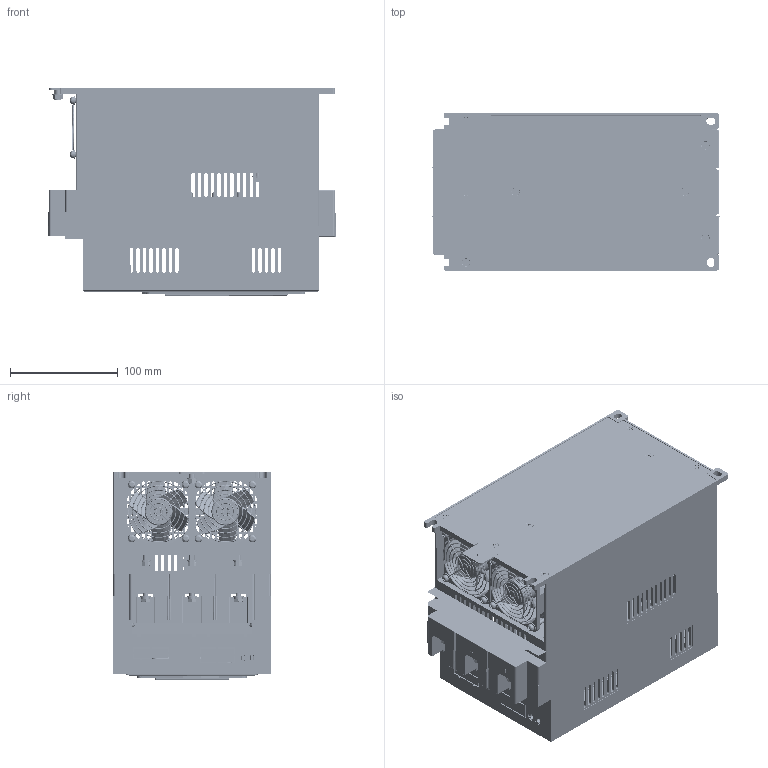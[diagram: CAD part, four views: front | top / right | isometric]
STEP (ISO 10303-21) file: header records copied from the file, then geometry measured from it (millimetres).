
FILE_DESCRIPTION((''),'2;1');
FILE_NAME('1-NJR5-45KW-ALL_ASM','2021-09-27T08:46:58',('ruanmm'),(''),'CREO PARAMETRIC BY PTC INC, 2020044','CREO PARAMETRIC BY PTC INC, 2020044','');
FILE_SCHEMA(('CONFIG_CONTROL_DESIGN','SHAPE_APPEARANCE_LAYERS_GROUPS'));
Products named in the file (57): SRQ-BOTTOMSHELL_ASM; SHELL-BOTTOM-1; 8ZTD-946-133; 8ZTD-946-134; M3-NUT-10; 8ZTD-946-132; SHELL-BOTTOM-1-ASM_ASM; FAN-6025; 60X60-ZU; GB-T9074-4-M4-35; CPU-DIANYUANBAN-ASM_ASM_23_ASM; SPCC-BOTTOM-PLATE; NFH-M5-12-ZI; SPCC-PLATE-ASM_ASM; SHELL-BOTTOM-1_ASM; UP-SHELL-QIAO-20200507-F3; UP-SHELL-1; 048119_1; SHANGGAI-XIN__2; XSP__1; M3TONG__1; XLB-XIN__3; PCB-BL; XLB-XIN-3_ASM; XIAGAI-XIN__2; MANIFOLD_SOLID_BREP_40621; XSGMP-75ZX-M__2_ASM; YKL-75ZX__2; ZHONGZHUTU2__ASM_1_ASM; TOP-SHELL_ASM; MANIFOLD_SOLID_BREP_43363_1___3; MANIFOLD_SOLID_BREP_43363_1___4; MANIFOLD_SOLID_BREP_43363_1___5; MANIFOLD_SOLID_BREP_43363_1___6; MANIFOLD_SOLID_BREP_43363_1___7; MANIFOLD_SOLID_BREP_43363_1___8; MANIFOLD_SOLID_BREP_43363_1___9; MANIFOLD_SOLID_BREP_43363_1__10; MANIFOLD_SOLID_BREP_43363_1__11; MANIFOLD_SOLID_BREP_43363_1__12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
Assembly tree (113 placements, depth 7):
  1-NJR5-45KW-ALL_ASM
    SRQ-BOTTOMSHELL_ASM
    SHELL-BOTTOM-1_ASM
      SHELL-BOTTOM-1-ASM_ASM
        SHELL-BOTTOM-1
        8ZTD-946-133  x4
        8ZTD-946-134  x4
        M3-NUT-10
        8ZTD-946-132  x5
      FAN-6025  x2
      60X60-ZU  x2
      GB-T9074-4-M4-35  x8
      CPU-DIANYUANBAN-ASM_ASM_23_ASM
      SPCC-PLATE-ASM_ASM
        SPCC-BOTTOM-PLATE
        NFH-M5-12-ZI
    UP-SHELL-2_ASM
      UP-SHELL-QIAO-20200507-F3
      UP-SHELL-1
      048119_1
      TOP-SHELL_ASM
        ZHONGZHUTU2__ASM_1_ASM
          SHANGGAI-XIN__2
          XSP__1
          M3TONG__1  x4
          XLB-XIN-3_ASM
            XLB-XIN__3
            PCB-BL
          XIAGAI-XIN__2
          XSGMP-75ZX-M__2_ASM
            MANIFOLD_SOLID_BREP_40621
          YKL-75ZX__2
      MESSAGE-PCB2-_ASM_2_ASM_1_ASM_ASM
        MESSAGE-PCB2-_ASM_2_ASM_1_ASM_1_ASM
          JACK-20P_7_ASM_1__ASM_2_ASM_1_A_ASM
            MANIFOLD_SOLID_BREP_43363_1___2_ASM
              MANIFOLD_SOLID_BREP_43363_1___3
              MANIFOLD_SOLID_BREP_43363_1___4
              MANIFOLD_SOLID_BREP_43363_1___5
              MANIFOLD_SOLID_BREP_43363_1___6
              MANIFOLD_SOLID_BREP_43363_1___7
              MANIFOLD_SOLID_BREP_43363_1___8
              MANIFOLD_SOLID_BREP_43363_1___9
              MANIFOLD_SOLID_BREP_43363_1__10
              MANIFOLD_SOLID_BREP_43363_1__11
              MANIFOLD_SOLID_BREP_43363_1__12
          LED-RED2__2_1_1
          LED-YELLOW2__2_1_1
          LED-GREEN2__2_1_1
      PVC-POST
    M4X5-KB  x7
    GB-T9074-4-M3X8-ZD
    M5X12  x9
    M6X14  x12
    CT-M4X8  x6
    PT-M5X16  x4
    ST-M3X8  x3
Bounding box: 266.44 x 146 x 193 mm (x, y, z)
Volume: 975785.4 mm3; surface area: 947836.9 mm2
Topology: 158 solids, 165 shells, 14810 faces, 41458 edges, 27342 vertices
Faces by surface type: plane 10653, cylinder 3019, cone 406, bspline 306, torus 152, sphere 138, revolution 96, extrusion 40
Entity records: 459338 total; most frequent: CARTESIAN_POINT 95688, ORIENTED_EDGE 61882, DIRECTION 55971, EDGE_CURVE 31085, VECTOR 25163, LINE 25139, PRESENTATION_STYLE_ASSIGNMENT 24496, STYLED_ITEM 24415
